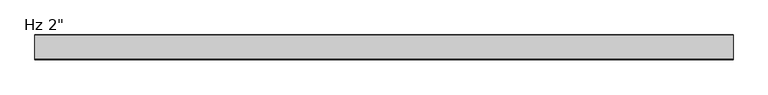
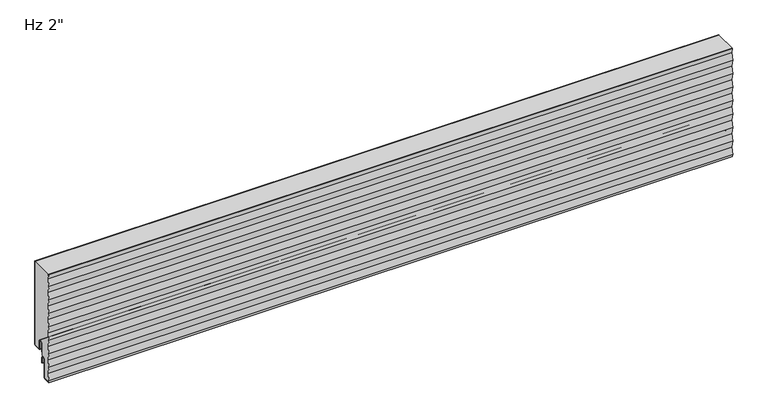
"""IFC4 building model written with IfcOpenShell, lengths in millimetres: plate geometry."""

from ifc_helpers import new_model, si_unit, point, frame, frame_2d, origin, place, context, project, spatial, polyline, circle_curve, trimmed, segment, composite_curve, outline, extrude, source, transform, mapped, element, save


def plate_45945243(model_context):
    return source(origin(), model_context, "Body", "SweptSolid", [
        extrude(outline(composite_curve([segment(polyline([(-48.4994194, 179.7488175), (-50.1716086, 190.2), (-1.0, 190.2), (-1.0, 3.175)]), True, "CONTINUOUS"), segment(trimmed(circle_curve(frame_2d((-2.38125, 3.175)), 1.38125), [point((-1.0, 3.175))], [point((-2.38125, 1.79375))], False, "CARTESIAN"), True, "CONTINUOUS"), segment(polyline([(-2.38125, 1.79375), (-15.08125, 1.79375)]), True, "CONTINUOUS"), segment(trimmed(circle_curve(frame_2d((-15.08125, 3.175)), 1.38125), [point((-15.08125, 1.79375))], [point((-16.4625, 3.175))], False, "CARTESIAN"), True, "CONTINUOUS"), segment(polyline([(-16.4625, 3.175), (-16.4625, 19.05)]), True, "CONTINUOUS"), segment(trimmed(circle_curve(frame_2d((-21.43125, 19.05)), 4.96875), [point((-16.4625, 19.05))], [point((-26.4, 19.05))], True, "CARTESIAN"), True, "CONTINUOUS"), segment(polyline([(-26.4, 19.05), (-26.4, -6.9375), (-30.95625, -6.9375)]), True, "CONTINUOUS"), segment(trimmed(circle_curve(frame_2d((-30.95625, -11.90625)), 4.96875), [point((-30.95625, -6.9375))], [point((-35.925, -11.90625))], True, "CARTESIAN"), True, "CONTINUOUS"), segment(polyline([(-35.925, -11.90625), (-35.925, -50.0895546)]), True, "CONTINUOUS"), segment(trimmed(circle_curve(frame_2d((-37.30625, -50.0895546)), 1.38125), [point((-35.925, -50.0895546))], [point((-37.233961, -51.4689117))], False, "CARTESIAN"), True, "CONTINUOUS"), segment(polyline([(-37.233961, -51.4689117), (-50.4085109, -52.1593606), (-50.9378194, -48.8511825), (-48.4994194, -33.6111825), (-50.9378194, -18.3711825), (-48.4994194, -3.1311825), (-50.9378194, 12.1088175), (-48.4994194, 27.3488175), (-50.9378194, 42.5888175), (-48.4994194, 57.8288175), (-50.9378194, 73.0688175), (-48.4994194, 88.3088175), (-50.9378194, 103.5488175), (-48.4994194, 118.7888175), (-50.9378194, 134.0288175), (-48.4994194, 149.2688175), (-50.9378194, 164.5088175), (-48.4994194, 179.7488175)]), True, "CONTINUOUS")], self_intersect=False)), frame((-730.0, 0.0, 0.0), z_axis=(1.0, 0.0, 0.0), x_axis=(0.0, 1.0, 0.0)), (0.0, 0.0, 1.0), 1460.0),
        extrude(outline(composite_curve([segment(polyline([(-25.4, 0.79375), (-26.4, 0.79375), (-26.4, 19.05)]), True, "CONTINUOUS"), segment(trimmed(circle_curve(frame_2d((-21.43125, 19.05)), 4.96875), [point((-26.4, 19.05))], [point((-16.4625, 19.05))], False, "CARTESIAN"), True, "CONTINUOUS"), segment(polyline([(-16.4625, 19.05), (-16.4625, 3.175)]), True, "CONTINUOUS"), segment(trimmed(circle_curve(frame_2d((-15.08125, 3.175)), 1.38125), [point((-16.4625, 3.175))], [point((-15.08125, 1.79375))], True, "CARTESIAN"), True, "CONTINUOUS"), segment(polyline([(-15.08125, 1.79375), (-2.38125, 1.79375)]), True, "CONTINUOUS"), segment(trimmed(circle_curve(frame_2d((-2.38125, 3.175)), 1.38125), [point((-2.38125, 1.79375))], [point((-1.0, 3.175))], True, "CARTESIAN"), True, "CONTINUOUS"), segment(polyline([(-1.0, 3.175), (-1.0, 190.2), (0.0, 190.2), (0.0, 3.175)]), True, "CONTINUOUS"), segment(trimmed(circle_curve(frame_2d((-2.38125, 3.175)), 2.38125), [point((0.0, 3.175))], [point((-2.38125, 0.79375))], False, "CARTESIAN"), True, "CONTINUOUS"), segment(polyline([(-2.38125, 0.79375), (-15.08125, 0.79375)]), True, "CONTINUOUS"), segment(trimmed(circle_curve(frame_2d((-15.08125, 3.175)), 2.38125), [point((-15.08125, 0.79375))], [point((-17.4625, 3.175))], False, "CARTESIAN"), True, "CONTINUOUS"), segment(polyline([(-17.4625, 3.175), (-17.4625, 19.05)]), True, "CONTINUOUS"), segment(trimmed(circle_curve(frame_2d((-21.43125, 19.05)), 3.96875), [point((-17.4625, 19.05))], [point((-25.4, 19.05))], True, "CARTESIAN"), True, "CONTINUOUS"), segment(polyline([(-25.4, 19.05), (-25.4, 0.79375)]), True, "CONTINUOUS")], self_intersect=False)), frame((-730.0, 0.0, 0.0), z_axis=(1.0, 0.0, 0.0), x_axis=(0.0, 1.0, 0.0)), (0.0, 0.0, 1.0), 1460.0),
        extrude(outline(composite_curve([segment(trimmed(circle_curve(frame_2d((-26.19375, -23.2314549)), 0.79375), [point((-25.4, -23.2314549))], [point((-26.9875, -23.2314549))], False, "CARTESIAN"), True, "CONTINUOUS"), segment(polyline([(-26.9875, -23.2314549), (-26.9875, -11.9205174)]), True, "CONTINUOUS"), segment(trimmed(circle_curve(frame_2d((-30.95625, -11.9205174)), 3.96875), [point((-26.9875, -11.9205174))], [point((-34.925, -11.9205174))], True, "CARTESIAN"), True, "CONTINUOUS"), segment(polyline([(-34.925, -11.9205174), (-34.925, -50.1038221)]), True, "CONTINUOUS"), segment(trimmed(circle_curve(frame_2d((-37.30625, -50.1038221)), 2.38125), [point((-34.925, -50.1038221))], [point((-37.181625, -52.4818086))], False, "CARTESIAN"), True, "CONTINUOUS"), segment(polyline([(-37.181625, -52.4818086), (-51.3543553, -53.22457), (-52.0509395, -48.8709186), (-49.6125395, -33.6309186), (-52.0509395, -18.3909186), (-49.6125395, -3.1509186), (-52.0509395, 12.0890814), (-49.6125395, 27.3290814), (-52.0509395, 42.5690814), (-49.6125395, 57.8090814), (-52.0509395, 73.0490814), (-49.6125395, 88.2890814), (-52.0509395, 103.5290814), (-49.6125395, 118.7690814), (-52.0509395, 134.0090814), (-49.6125395, 149.2490814), (-52.0509395, 164.4890814), (-49.6125395, 179.7290814), (-51.2878865, 190.2), (-50.2751674, 190.2), (-48.5998204, 179.7290814), (-51.0382204, 164.4890814), (-48.5998204, 149.2490814), (-51.0382204, 134.0090814), (-48.5998204, 118.7690814), (-51.0382204, 103.5290814), (-48.5998204, 88.2890814), (-51.0382204, 73.0490814), (-48.5998204, 57.8090814), (-51.0382204, 42.5690814), (-48.5998204, 27.3290814), (-51.0382204, 12.0890814), (-48.5998204, -3.1509186), (-51.0382204, -18.3909186), (-48.5998204, -33.6309186), (-51.0382204, -48.8709186), (-50.5089447, -52.1788915), (-37.233961, -51.4831791)]), True, "CONTINUOUS"), segment(trimmed(circle_curve(frame_2d((-37.30625, -50.1038221)), 1.38125), [point((-37.233961, -51.4831791))], [point((-35.925, -50.1038221))], True, "CARTESIAN"), True, "CONTINUOUS"), segment(polyline([(-35.925, -50.1038221), (-35.925, -11.9205174)]), True, "CONTINUOUS"), segment(trimmed(circle_curve(frame_2d((-30.95625, -11.9205174)), 4.96875), [point((-35.925, -11.9205174))], [point((-25.9875, -11.9205174))], False, "CARTESIAN"), True, "CONTINUOUS"), segment(polyline([(-25.9875, -11.9205174), (-26.19375, -13.5080174), (-25.4, -13.5080174), (-25.4, -23.2314549)]), True, "CONTINUOUS")], self_intersect=False)), frame((-730.0, 0.0, 0.0), z_axis=(1.0, 0.0, 0.0), x_axis=(0.0, 1.0, 0.0)), (0.0, 0.0, 1.0), 1460.0),
    ])


if __name__ == "__main__":
    model = new_model("IFC4")
    model_context = context("Model", 3, world=origin())
    ifc_project = project(units=[si_unit("LENGTHUNIT", "METRE", prefix="MILLI")], contexts=[model_context])
    site = spatial("IfcSite", under=ifc_project)
    building = spatial("IfcBuilding", under=site)
    placement = place(None, origin())
    plate_shape = plate_45945243(model_context)
    element("IfcPlate", 1, ObjectType="KIP-30-DWHR-R19-CP-Hz-S : Hz 2\"", at=placement, inside=building, context=model_context, shape_type="MappedRepresentation", body=[
        mapped(plate_shape, transform((0.0, 0.0, 0.0), x_axis=(1.0, 0.0, 0.0), y_axis=(0.0, 1.0, 0.0), z_axis=(0.0, 0.0, 1.0))),
    ])
    save(model, "model.ifc")
